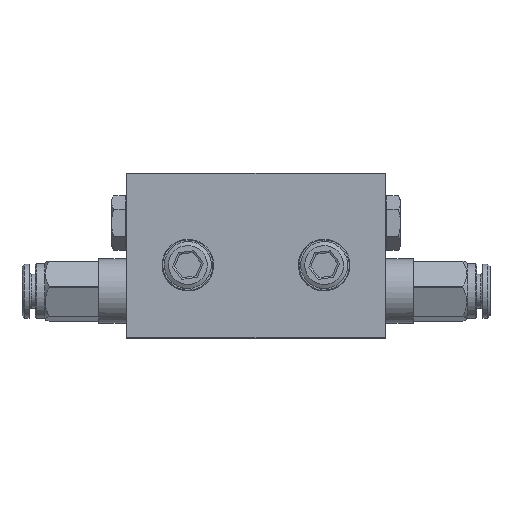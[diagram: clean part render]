
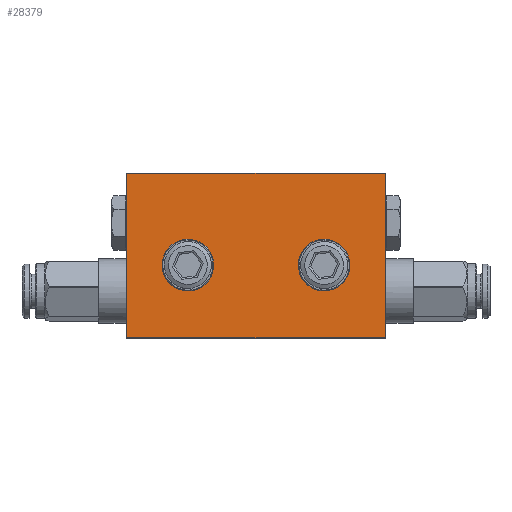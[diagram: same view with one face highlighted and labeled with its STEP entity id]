
A CAD part, top view. The second image highlights one B-rep face of the part: STEP entity #28379.
In plain terms, the highlighted planar face has unit normal (0, 0, 1) as drawn and (0, 0, -1) by its records, which use the part's own axes.
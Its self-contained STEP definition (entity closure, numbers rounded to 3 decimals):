
#20 = DIRECTION ( 'NONE',  ( -1., 0., 0. ) ) ;
#1919 = CARTESIAN_POINT ( 'NONE',  ( 27.5, 0., -4.85 ) ) ;
#2136 = EDGE_CURVE ( 'NONE', #25965, #14399, #17016, .T. ) ;
#2170 = CARTESIAN_POINT ( 'NONE',  ( 0., -35., -4.85 ) ) ;
#2431 = CIRCLE ( 'NONE', #44588, 3.1 ) ;
#2828 = AXIS2_PLACEMENT_3D ( 'NONE', #6728, #24690, #29230 ) ;
#2952 = VERTEX_POINT ( 'NONE', #9391 ) ;
#3696 = DIRECTION ( 'NONE',  ( 0., 0., -1. ) ) ;
#3873 = DIRECTION ( 'NONE',  ( -1., 0., 0. ) ) ;
#4511 = ORIENTED_EDGE ( 'NONE', *, *, #21450, .F. ) ;
#4576 = LINE ( 'NONE', #18710, #19150 ) ;
#5079 = EDGE_LOOP ( 'NONE', ( #44965, #17759, #23661, #17165 ) ) ;
#6290 = EDGE_CURVE ( 'NONE', #14399, #39876, #4576, .T. ) ;
#6728 = CARTESIAN_POINT ( 'NONE',  ( 0., 0., -4.85 ) ) ;
#6873 = DIRECTION ( 'NONE',  ( 0., -1., 0. ) ) ;
#8708 = AXIS2_PLACEMENT_3D ( 'NONE', #36532, #3696, #20 ) ;
#9103 = DIRECTION ( 'NONE',  ( 0., 0., -1. ) ) ;
#9124 = DIRECTION ( 'NONE',  ( 0., 1., 0. ) ) ;
#9391 = CARTESIAN_POINT ( 'NONE',  ( -27.5, -35., -4.85 ) ) ;
#10078 = CARTESIAN_POINT ( 'NONE',  ( 11.4, -15.5, -4.85 ) ) ;
#11031 = FACE_OUTER_BOUND ( 'NONE', #5079, .T. ) ;
#11040 = CIRCLE ( 'NONE', #8708, 3.1 ) ;
#12701 = VECTOR ( 'NONE', #6873, 1000. ) ;
#14399 = VERTEX_POINT ( 'NONE', #38874 ) ;
#15814 = CARTESIAN_POINT ( 'NONE',  ( 27.5, -35., -4.85 ) ) ;
#16854 = VERTEX_POINT ( 'NONE', #27865 ) ;
#17016 = LINE ( 'NONE', #1919, #27419 ) ;
#17165 = ORIENTED_EDGE ( 'NONE', *, *, #2136, .F. ) ;
#17759 = ORIENTED_EDGE ( 'NONE', *, *, #46234, .F. ) ;
#18710 = CARTESIAN_POINT ( 'NONE',  ( 0., 0., -4.85 ) ) ;
#19150 = VECTOR ( 'NONE', #3873, 1000. ) ;
#19898 = LINE ( 'NONE', #2170, #26542 ) ;
#20016 = CARTESIAN_POINT ( 'NONE',  ( -27.5, 0., -4.85 ) ) ;
#21450 = EDGE_CURVE ( 'NONE', #16854, #16854, #2431, .T. ) ;
#23463 = CARTESIAN_POINT ( 'NONE',  ( -14.5, -15.5, -4.85 ) ) ;
#23661 = ORIENTED_EDGE ( 'NONE', *, *, #6290, .F. ) ;
#23703 = DIRECTION ( 'NONE',  ( 1., 0., 0. ) ) ;
#24604 = LINE ( 'NONE', #35414, #12701 ) ;
#24690 = DIRECTION ( 'NONE',  ( 0., 0., 1. ) ) ;
#25645 = FACE_BOUND ( 'NONE', #31225, .T. ) ;
#25965 = VERTEX_POINT ( 'NONE', #15814 ) ;
#26542 = VECTOR ( 'NONE', #31186, 1000. ) ;
#27419 = VECTOR ( 'NONE', #9124, 1000. ) ;
#27865 = CARTESIAN_POINT ( 'NONE',  ( -11.4, -15.5, -4.85 ) ) ;
#28379 = ADVANCED_FACE ( 'NONE', ( #25645, #43181, #11031 ), #36424, .F. ) ;
#29230 = DIRECTION ( 'NONE',  ( 1., 0., 0. ) ) ;
#31186 = DIRECTION ( 'NONE',  ( 1., 0., 0. ) ) ;
#31225 = EDGE_LOOP ( 'NONE', ( #4511 ) ) ;
#32074 = EDGE_CURVE ( 'NONE', #2952, #25965, #19898, .T. ) ;
#35414 = CARTESIAN_POINT ( 'NONE',  ( -27.5, 0., -4.85 ) ) ;
#36424 = PLANE ( 'NONE',  #2828 ) ;
#36532 = CARTESIAN_POINT ( 'NONE',  ( 14.5, -15.5, -4.85 ) ) ;
#38874 = CARTESIAN_POINT ( 'NONE',  ( 27.5, 0., -4.85 ) ) ;
#39594 = EDGE_LOOP ( 'NONE', ( #40299 ) ) ;
#39876 = VERTEX_POINT ( 'NONE', #20016 ) ;
#40299 = ORIENTED_EDGE ( 'NONE', *, *, #40861, .F. ) ;
#40861 = EDGE_CURVE ( 'NONE', #45818, #45818, #11040, .T. ) ;
#43181 = FACE_BOUND ( 'NONE', #39594, .T. ) ;
#44588 = AXIS2_PLACEMENT_3D ( 'NONE', #23463, #9103, #23703 ) ;
#44965 = ORIENTED_EDGE ( 'NONE', *, *, #32074, .F. ) ;
#45818 = VERTEX_POINT ( 'NONE', #10078 ) ;
#46234 = EDGE_CURVE ( 'NONE', #39876, #2952, #24604, .T. ) ;
